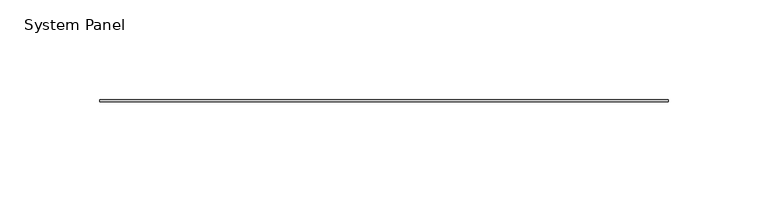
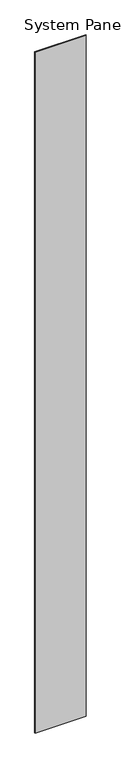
"""IFC4 building model written with IfcOpenShell, lengths in millimetres: plate geometry, System Panel : Stratco_Hiland_Tray."""

from ifc_helpers import new_model, si_unit, origin, origin_with_axes, place, context, project, spatial, polyline, outline, extrude, source, transform, mapped, element, save


def system_panel_3cb335dd(model_context):
    return source(origin(), model_context, "Body", "SweptSolid", [
        extrude(outline(polyline([(142.5000002, 2.5), (-142.5000002, 2.5), (-142.5000002, 3.5), (142.5000002, 3.5), (142.5000002, 2.5)])), origin_with_axes(), (0.0, 0.0, 1.0), 4000.0),
    ])


if __name__ == "__main__":
    model = new_model("IFC4")
    model_context = context("Model", 3, world=origin())
    ifc_project = project(units=[si_unit("LENGTHUNIT", "METRE", prefix="MILLI")], contexts=[model_context])
    site = spatial("IfcSite", under=ifc_project)
    building = spatial("IfcBuilding", under=site)
    placement = place(None, origin())
    system_panel_shape = system_panel_3cb335dd(model_context)
    element("IfcPlate", 1, ObjectType="System Panel : Stratco_Hiland_Tray", at=placement, inside=building, context=model_context, shape_type="MappedRepresentation", body=[
        mapped(system_panel_shape, transform((0.0, 0.0, 0.0), x_axis=(1.0, 0.0, 0.0), y_axis=(0.0, 1.0, 0.0), z_axis=(0.0, 0.0, 1.0))),
    ])
    save(model, "model.ifc")
